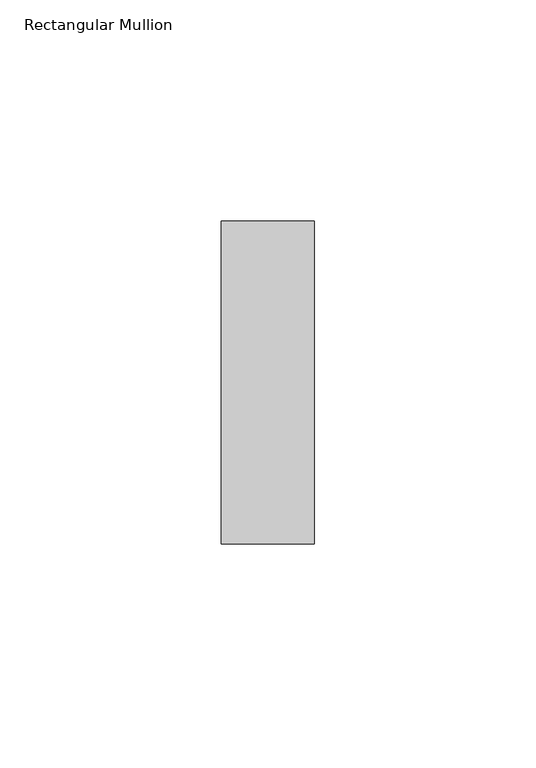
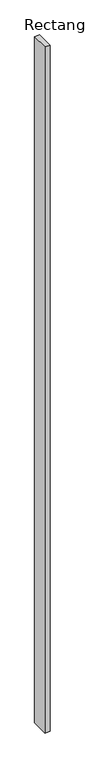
"""IFC4 building model written with IfcOpenShell, lengths in millimetres: member geometry, Rectangular Mullion : RSen_21_CWM_support profile - 21x73 - left_gen_duco projects."""

from ifc_helpers import new_model, si_unit, frame, origin, place, context, project, spatial, polyline, outline, extrude, source, transform, mapped, element, save


def rectangular_mullion_a477f927(model_context):
    return source(origin(), model_context, "Body", "SweptSolid", [
        extrude(outline(polyline([(-50.0, 1.0), (-50.0, -72.0), (-71.0, -72.0), (-71.0, 1.0), (-50.0, 1.0)])), frame((0.0, 0.0, -3000.0), z_axis=(0.0, 0.0, 1.0), x_axis=(1.0, 0.0, 0.0)), (0.0, 0.0, 1.0), 3000.0),
    ])


if __name__ == "__main__":
    model = new_model("IFC4")
    model_context = context("Model", 3, world=origin())
    ifc_project = project(units=[si_unit("LENGTHUNIT", "METRE", prefix="MILLI")], contexts=[model_context])
    site = spatial("IfcSite", under=ifc_project)
    building = spatial("IfcBuilding", under=site)
    placement = place(None, origin())
    rectangular_mullion_shape = rectangular_mullion_a477f927(model_context)
    element("IfcMember", 1, ObjectType="Rectangular Mullion : RSen_21_CWM_support profile - 21x73 - left_gen_duco projects", at=placement, inside=building, context=model_context, shape_type="MappedRepresentation", body=[
        mapped(rectangular_mullion_shape, transform((0.0, 0.0, 0.0), x_axis=(1.0, 0.0, 0.0), y_axis=(0.0, 1.0, 0.0), z_axis=(0.0, 0.0, 1.0))),
    ])
    save(model, "model.ifc")
